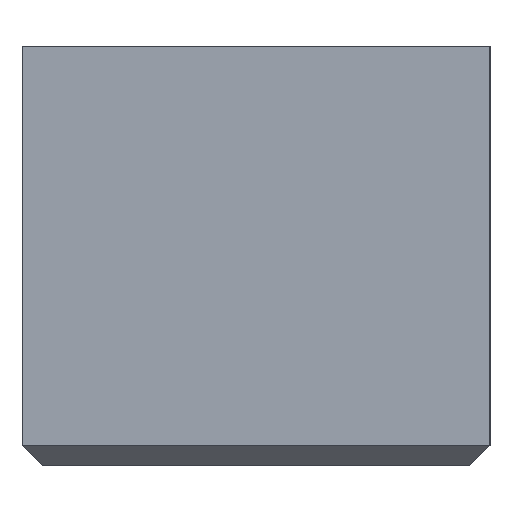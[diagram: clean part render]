
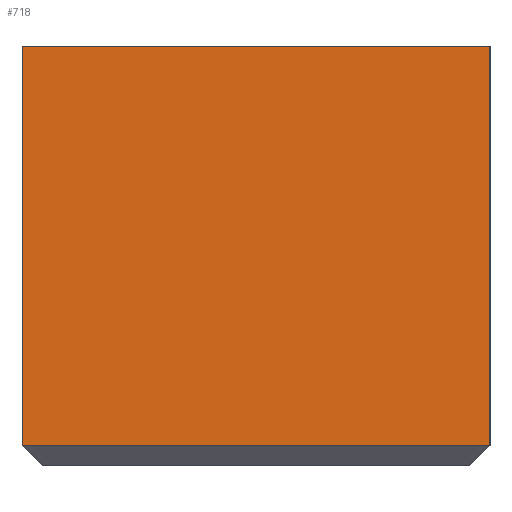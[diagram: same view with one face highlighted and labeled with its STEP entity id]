
A CAD part, left-side view. The second image highlights one B-rep face of the part: STEP entity #718.
In plain terms, the highlighted planar face has unit normal (-1, 0, 0).
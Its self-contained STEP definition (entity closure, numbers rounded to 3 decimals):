
#278=CARTESIAN_POINT('',(-4.765,-4.765,7.145));
#279=VERTEX_POINT('',#278);
#286=CARTESIAN_POINT('',(-4.765,-4.765,-2.675));
#287=VERTEX_POINT('',#286);
#288=CARTESIAN_POINT('',(-4.765,-4.765,-2.675));
#289=DIRECTION('',(0.0,0.0,1.0));
#290=VECTOR('',#289,9.82);
#291=LINE('',#288,#290);
#292=EDGE_CURVE('',#287,#279,#291,.T.);
#373=CARTESIAN_POINT('',(-4.765,6.745,7.145));
#374=VERTEX_POINT('',#373);
#381=CARTESIAN_POINT('',(-4.765,-4.765,7.145));
#382=DIRECTION('',(0.0,1.0,0.0));
#383=VECTOR('',#382,11.51);
#384=LINE('',#381,#383);
#385=EDGE_CURVE('',#279,#374,#384,.T.);
#564=CARTESIAN_POINT('',(-4.765,6.745,-2.675));
#565=VERTEX_POINT('',#564);
#566=CARTESIAN_POINT('',(-4.765,-4.765,-2.675));
#567=DIRECTION('',(0.0,1.0,0.0));
#568=VECTOR('',#567,11.51);
#569=LINE('',#566,#568);
#570=EDGE_CURVE('',#287,#565,#569,.T.);
#694=CARTESIAN_POINT('',(-4.765,6.745,-2.675));
#695=DIRECTION('',(0.0,0.0,1.0));
#696=VECTOR('',#695,9.82);
#697=LINE('',#694,#696);
#698=EDGE_CURVE('',#565,#374,#697,.T.);
#707=CARTESIAN_POINT('',(-4.765,-4.765,-3.175));
#708=DIRECTION('',(-1.0,0.0,0.0));
#709=DIRECTION('',(0.0,0.0,1.0));
#710=AXIS2_PLACEMENT_3D('',#707,#708,#709);
#711=PLANE('',#710);
#712=ORIENTED_EDGE('',*,*,#570,.F.);
#713=ORIENTED_EDGE('',*,*,#292,.T.);
#714=ORIENTED_EDGE('',*,*,#385,.T.);
#715=ORIENTED_EDGE('',*,*,#698,.F.);
#716=EDGE_LOOP('',(#712,#713,#714,#715));
#717=FACE_OUTER_BOUND('',#716,.T.);
#718=ADVANCED_FACE('',(#717),#711,.T.);
